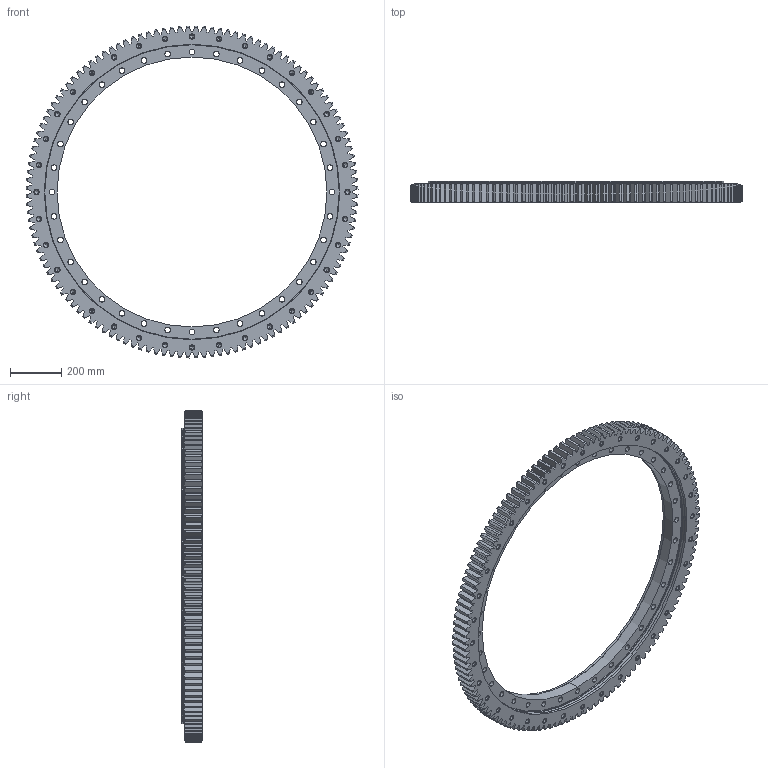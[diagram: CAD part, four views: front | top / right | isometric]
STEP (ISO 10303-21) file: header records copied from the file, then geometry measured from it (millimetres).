
FILE_DESCRIPTION (( 'STEP AP203' ), '1' );
FILE_NAME ('B2125-2-1298CA.STEP', '2025-09-29T13:26:25', ( '' ), ( '' ), 'SwSTEP 2.0', 'SolidWorks 2020', '' );
FILE_SCHEMA (( 'CONFIG_CONTROL_DESIGN' ));
Length unit declared in the file: millimetre
Products named in the file (1): B2125-2-1298CA
Bounding box: 1297.8 x 82 x 1297.8 mm (x, y, z)
Volume: 24785266.3 mm3; surface area: 2335317.8 mm2
Topology: 2 solids, 2 shells, 1090 faces, 3090 edges, 1976 vertices
Faces by surface type: cone 400, cylinder 294, bspline 256, plane 140
Entity records: 36065 total; most frequent: CARTESIAN_POINT 9925, ORIENTED_EDGE 6036, DIRECTION 4580, EDGE_CURVE 3018, VERTEX_POINT 1976, AXIS2_PLACEMENT_3D 1751, EDGE_LOOP 1210, ADVANCED_FACE 1090
